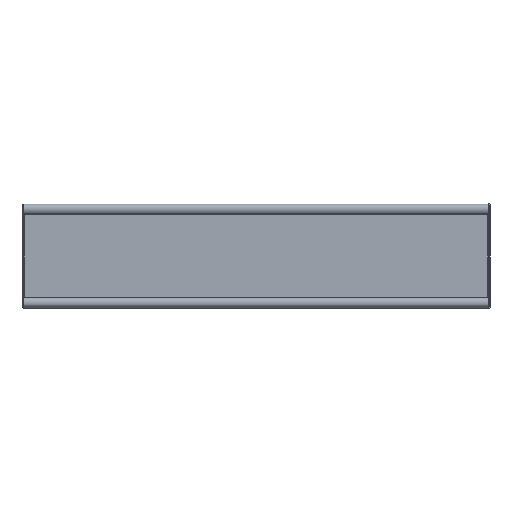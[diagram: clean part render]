
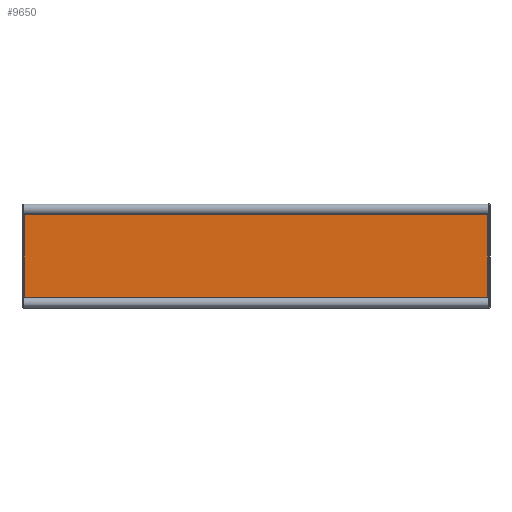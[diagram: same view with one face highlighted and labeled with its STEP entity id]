
A CAD part, front view. The second image highlights one B-rep face of the part: STEP entity #9650.
In plain terms, the highlighted planar face has unit normal (0, -1, 0).
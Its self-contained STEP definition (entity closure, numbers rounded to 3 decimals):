
#30 = VECTOR ( 'NONE', #5861, 1000. ) ;
#37 = AXIS2_PLACEMENT_3D ( 'NONE', #2114, #5013, #4385 ) ;
#69 = VERTEX_POINT ( 'NONE', #6127 ) ;
#395 = ORIENTED_EDGE ( 'NONE', *, *, #2433, .F. ) ;
#574 = CIRCLE ( 'NONE', #6487, 5. ) ;
#640 = CARTESIAN_POINT ( 'NONE',  ( 449., -2., -99. ) ) ;
#746 = ORIENTED_EDGE ( 'NONE', *, *, #1022, .F. ) ;
#939 = LINE ( 'NONE', #1554, #8088 ) ;
#1022 = EDGE_CURVE ( 'NONE', #2004, #4783, #939, .T. ) ;
#1266 = EDGE_CURVE ( 'NONE', #7600, #69, #1539, .T. ) ;
#1321 = FACE_OUTER_BOUND ( 'NONE', #4981, .T. ) ;
#1539 = LINE ( 'NONE', #4828, #3479 ) ;
#1554 = CARTESIAN_POINT ( 'NONE',  ( -446., -2., -99. ) ) ;
#1699 = CARTESIAN_POINT ( 'NONE',  ( 445., -2., -96. ) ) ;
#2004 = VERTEX_POINT ( 'NONE', #3209 ) ;
#2081 = CARTESIAN_POINT ( 'NONE',  ( -449., -2., -99. ) ) ;
#2114 = CARTESIAN_POINT ( 'NONE',  ( -449., -2., 99. ) ) ;
#2169 = VERTEX_POINT ( 'NONE', #1699 ) ;
#2433 = EDGE_CURVE ( 'NONE', #7600, #2169, #574, .T. ) ;
#2712 = DIRECTION ( 'NONE',  ( 0., -1., 0. ) ) ;
#2749 = AXIS2_PLACEMENT_3D ( 'NONE', #8287, #6187, #4534 ) ;
#2771 = PLANE ( 'NONE',  #2925 ) ;
#2925 = AXIS2_PLACEMENT_3D ( 'NONE', #2081, #5911, #9729 ) ;
#2953 = CARTESIAN_POINT ( 'NONE',  ( -449., -2., -96. ) ) ;
#3209 = CARTESIAN_POINT ( 'NONE',  ( -446., -2., -95. ) ) ;
#3273 = VERTEX_POINT ( 'NONE', #6524 ) ;
#3348 = CIRCLE ( 'NONE', #3669, 5. ) ;
#3449 = CARTESIAN_POINT ( 'NONE',  ( -446., -2., 95. ) ) ;
#3479 = VECTOR ( 'NONE', #6176, 1000. ) ;
#3596 = ORIENTED_EDGE ( 'NONE', *, *, #6579, .F. ) ;
#3669 = AXIS2_PLACEMENT_3D ( 'NONE', #6502, #7988, #7242 ) ;
#3682 = VERTEX_POINT ( 'NONE', #9083 ) ;
#3744 = ORIENTED_EDGE ( 'NONE', *, *, #1266, .T. ) ;
#3907 = ORIENTED_EDGE ( 'NONE', *, *, #7769, .F. ) ;
#4385 = DIRECTION ( 'NONE',  ( 0., 0., 1. ) ) ;
#4474 = VECTOR ( 'NONE', #6148, 1000. ) ;
#4488 = CIRCLE ( 'NONE', #2749, 5. ) ;
#4534 = DIRECTION ( 'NONE',  ( 0., 0., 1. ) ) ;
#4646 = DIRECTION ( 'NONE',  ( 0., 0., 1. ) ) ;
#4783 = VERTEX_POINT ( 'NONE', #3449 ) ;
#4828 = CARTESIAN_POINT ( 'NONE',  ( 446., -2., -99. ) ) ;
#4981 = EDGE_LOOP ( 'NONE', ( #395, #3744, #3907, #3596, #7024, #746, #8781, #5022 ) ) ;
#5013 = DIRECTION ( 'NONE',  ( 0., -1., 0. ) ) ;
#5022 = ORIENTED_EDGE ( 'NONE', *, *, #9075, .T. ) ;
#5161 = LINE ( 'NONE', #2953, #30 ) ;
#5349 = LINE ( 'NONE', #8543, #4474 ) ;
#5412 = EDGE_CURVE ( 'NONE', #3273, #2004, #4488, .T. ) ;
#5861 = DIRECTION ( 'NONE',  ( 1., 0., 0. ) ) ;
#5911 = DIRECTION ( 'NONE',  ( 0., 1., 0. ) ) ;
#6127 = CARTESIAN_POINT ( 'NONE',  ( 446., -2., 95. ) ) ;
#6148 = DIRECTION ( 'NONE',  ( 1., 0., 0. ) ) ;
#6176 = DIRECTION ( 'NONE',  ( 0., 0., 1. ) ) ;
#6187 = DIRECTION ( 'NONE',  ( 0., -1., 0. ) ) ;
#6353 = CARTESIAN_POINT ( 'NONE',  ( 446., -2., -95. ) ) ;
#6487 = AXIS2_PLACEMENT_3D ( 'NONE', #640, #2712, #6644 ) ;
#6502 = CARTESIAN_POINT ( 'NONE',  ( 449., -2., 99. ) ) ;
#6524 = CARTESIAN_POINT ( 'NONE',  ( -445., -2., -96. ) ) ;
#6579 = EDGE_CURVE ( 'NONE', #3682, #7951, #5349, .T. ) ;
#6644 = DIRECTION ( 'NONE',  ( 0., 0., 1. ) ) ;
#7024 = ORIENTED_EDGE ( 'NONE', *, *, #9889, .F. ) ;
#7242 = DIRECTION ( 'NONE',  ( 0., 0., 1. ) ) ;
#7600 = VERTEX_POINT ( 'NONE', #6353 ) ;
#7769 = EDGE_CURVE ( 'NONE', #7951, #69, #3348, .T. ) ;
#7951 = VERTEX_POINT ( 'NONE', #9090 ) ;
#7988 = DIRECTION ( 'NONE',  ( 0., -1., 0. ) ) ;
#8088 = VECTOR ( 'NONE', #4646, 1000. ) ;
#8194 = CIRCLE ( 'NONE', #37, 5. ) ;
#8287 = CARTESIAN_POINT ( 'NONE',  ( -449., -2., -99. ) ) ;
#8543 = CARTESIAN_POINT ( 'NONE',  ( -449., -2., 96. ) ) ;
#8781 = ORIENTED_EDGE ( 'NONE', *, *, #5412, .F. ) ;
#9075 = EDGE_CURVE ( 'NONE', #3273, #2169, #5161, .T. ) ;
#9083 = CARTESIAN_POINT ( 'NONE',  ( -445., -2., 96. ) ) ;
#9090 = CARTESIAN_POINT ( 'NONE',  ( 445., -2., 96. ) ) ;
#9650 = ADVANCED_FACE ( 'NONE', ( #1321 ), #2771, .F. ) ;
#9729 = DIRECTION ( 'NONE',  ( 0., 0., 1. ) ) ;
#9889 = EDGE_CURVE ( 'NONE', #4783, #3682, #8194, .T. ) ;
